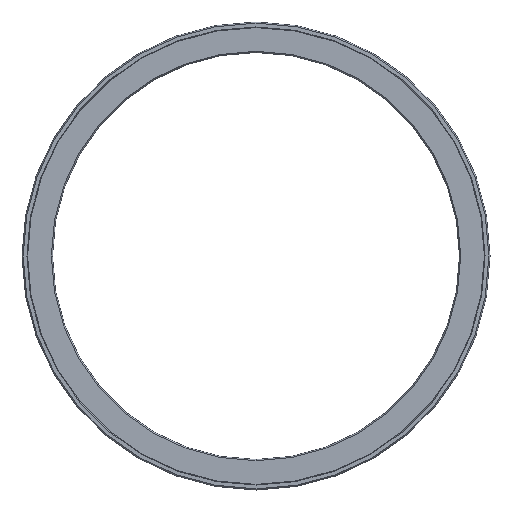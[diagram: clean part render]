
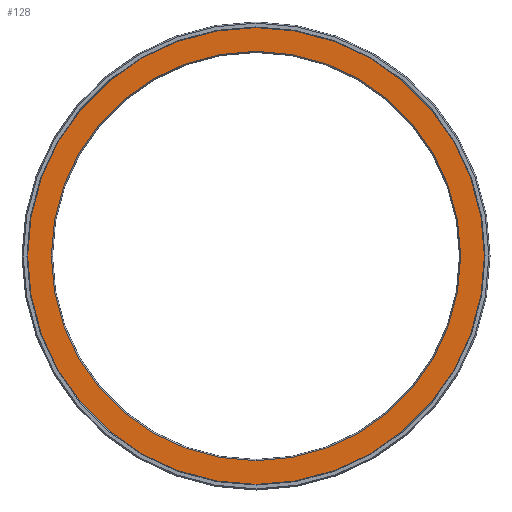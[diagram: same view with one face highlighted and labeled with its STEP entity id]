
A CAD part, left-side view. The second image highlights one B-rep face of the part: STEP entity #128.
In plain terms, the highlighted planar face has unit normal (-1, 0, 0).
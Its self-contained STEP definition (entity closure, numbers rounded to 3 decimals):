
#112=PLANE('',#329);
#128=ADVANCED_FACE('',(#163,#164),#112,.T.);
#163=FACE_BOUND('',#199,.T.);
#164=FACE_BOUND('',#200,.T.);
#199=EDGE_LOOP('',(#235));
#200=EDGE_LOOP('',(#236));
#235=ORIENTED_EDGE('',*,*,#276,.T.);
#236=ORIENTED_EDGE('',*,*,#275,.F.);
#257=VERTEX_POINT('',#454);
#258=VERTEX_POINT('',#457);
#275=EDGE_CURVE('',#257,#257,#293,.T.);
#276=EDGE_CURVE('',#258,#258,#294,.T.);
#293=CIRCLE('',#326,112.25);
#294=CIRCLE('',#328,100.577);
#326=AXIS2_PLACEMENT_3D('',#453,#394,#395);
#328=AXIS2_PLACEMENT_3D('',#456,#398,#399);
#329=AXIS2_PLACEMENT_3D('',#458,#400,#401);
#394=DIRECTION('',(1.,0.,0.));
#395=DIRECTION('',(0.,0.,-1.));
#398=DIRECTION('',(1.,0.,0.));
#399=DIRECTION('',(0.,0.,1.));
#400=DIRECTION('',(-1.,0.,0.));
#401=DIRECTION('',(0.,0.,1.));
#453=CARTESIAN_POINT('',(0.,0.,0.));
#454=CARTESIAN_POINT('',(0.,0.,-112.25));
#456=CARTESIAN_POINT('',(0.,0.,0.));
#457=CARTESIAN_POINT('',(0.,0.,100.577));
#458=CARTESIAN_POINT('',(0.,112.25,0.));
